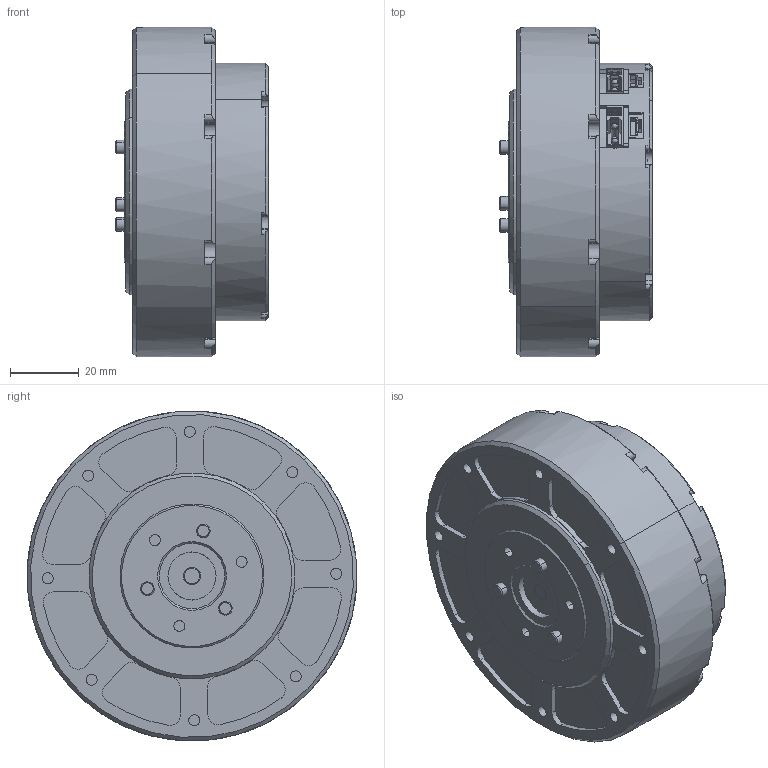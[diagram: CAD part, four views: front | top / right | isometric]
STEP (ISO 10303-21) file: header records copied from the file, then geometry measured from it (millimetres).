
FILE_DESCRIPTION (( 'STEP AP203' ), '1' );
FILE_NAME ('PDA-09.STEP', '2023-08-03T04:06:04', ( '' ), ( '' ), 'SwSTEP 2.0', 'SolidWorks 2020', '' );
FILE_SCHEMA (( 'CONFIG_CONTROL_DESIGN' ));
Products named in the file (5): GIM8108-PA- v1.0.1_NOBAT_release_20230104.step; 綴裔; GIM8108-PA- v1.0.2_NOBAT_release_20230418; GIM8108-9; PDA-09
Assembly tree (4 placements, depth 2):
  PDA-09
    GIM8108-PA- v1.0.1_NOBAT_release_20230104.step
    GIM8108-9
    綴裔
    GIM8108-PA- v1.0.2_NOBAT_release_20230418
Bounding box: 44.5 x 95.99 x 95.99 mm (x, y, z)
Volume: 192876.4 mm3; surface area: 67854.8 mm2
Topology: 174 solids, 566 shells, 8826 faces, 25426 edges, 17483 vertices
Faces by surface type: plane 6643, cylinder 1624, bspline 421, cone 53, sphere 49, torus 36
Entity records: 318521 total; most frequent: CARTESIAN_POINT 93256, ORIENTED_EDGE 44813, DIRECTION 42991, EDGE_CURVE 25367, VECTOR 19881, LINE 19881, VERTEX_POINT 17465, AXIS2_PLACEMENT_3D 11555
